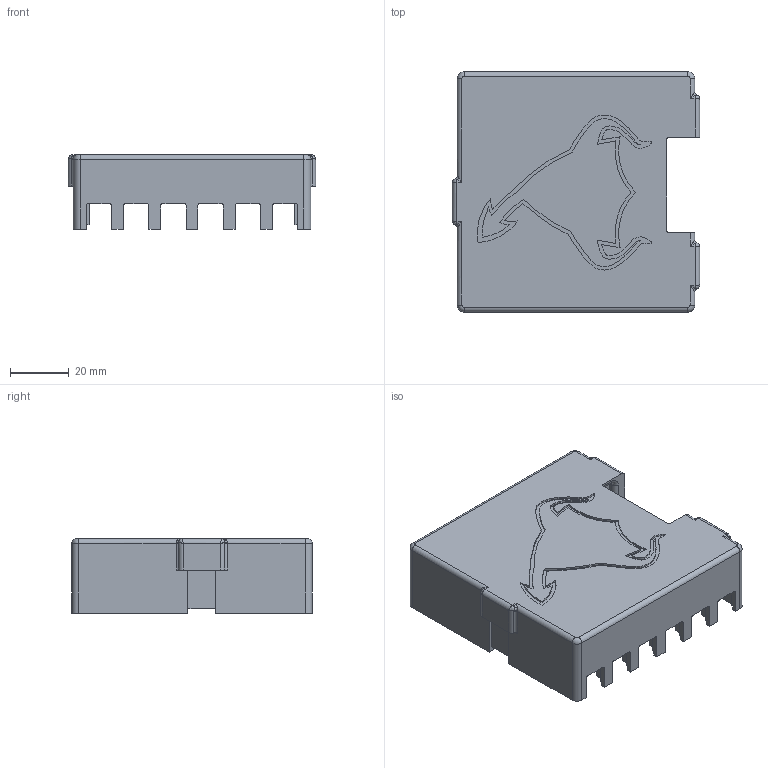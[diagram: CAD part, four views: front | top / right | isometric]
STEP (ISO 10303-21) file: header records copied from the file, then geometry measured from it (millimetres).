
FILE_DESCRIPTION (( 'STEP AP203' ), '1' );
FILE_NAME ('DEMON SHIELD COVER r1.STEP', '2019-11-22T15:52:41', ( '' ), ( '' ), 'SwSTEP 2.0', 'SolidWorks 2017', '' );
FILE_SCHEMA (( 'CONFIG_CONTROL_DESIGN' ));
Length unit declared in the file: inch
Products named in the file (1): DEMON SHIELD COVER r1
Bounding box: 84.36 x 81.92 x 25.4 mm (x, y, z)
Volume: 30782.6 mm3; surface area: 27640.2 mm2
Topology: 1 solids, 1 shells, 379 faces, 1089 edges, 702 vertices
Faces by surface type: plane 205, bspline 97, cylinder 71, torus 6
Entity records: 13916 total; most frequent: CARTESIAN_POINT 4588, ORIENTED_EDGE 2154, DIRECTION 1585, EDGE_CURVE 1077, LINE 747, VECTOR 747, VERTEX_POINT 702, AXIS2_PLACEMENT_3D 419
